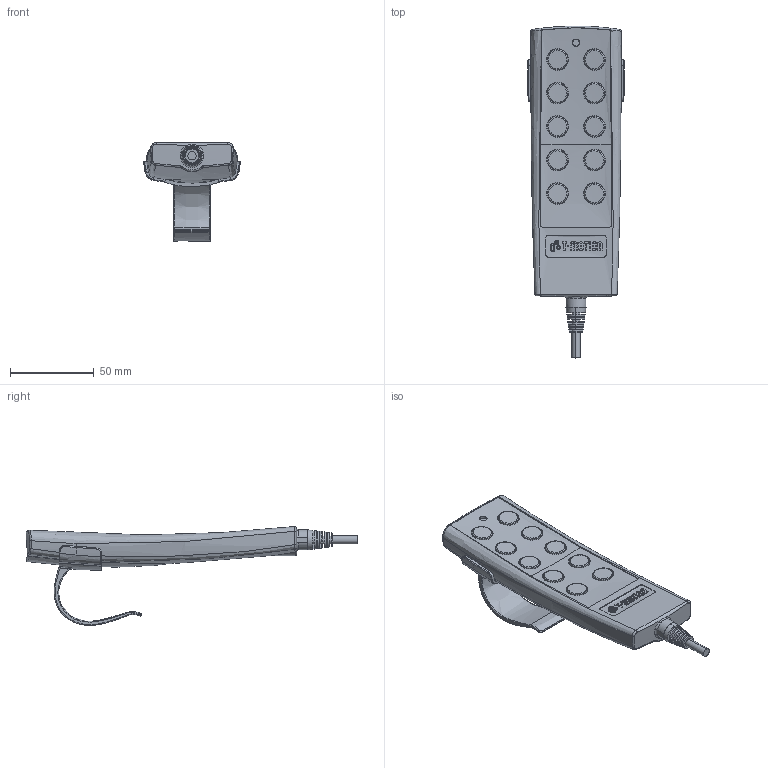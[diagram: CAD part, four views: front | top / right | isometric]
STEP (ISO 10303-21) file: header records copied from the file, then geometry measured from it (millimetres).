
FILE_DESCRIPTION (( 'STEP AP203' ), '1' );
FILE_NAME ('TH1.STEP', '2014-01-16T02:56:23', ( 'stanley' ), ( '' ), 'SwSTEP 2.0', 'SolidWorks 2010', '' );
FILE_SCHEMA (( 'CONFIG_CONTROL_DESIGN' ));
Products named in the file (1): TH1
Bounding box: 57.68 x 198.13 x 59.02 mm (x, y, z)
Volume: 141479.6 mm3; surface area: 32653.6 mm2
Topology: 2 solids, 3 shells, 1602 faces, 4534 edges, 2982 vertices
Faces by surface type: plane 1269, bspline 164, cylinder 97, torus 57, cone 15
Entity records: 92736 total; most frequent: CARTESIAN_POINT 57150, ORIENTED_EDGE 9060, DIRECTION 4801, EDGE_CURVE 4530, VERTEX_POINT 2982, B_SPLINE_CURVE_WITH_KNOTS 2862, AXIS2_PLACEMENT_3D 1696, EDGE_LOOP 1650
